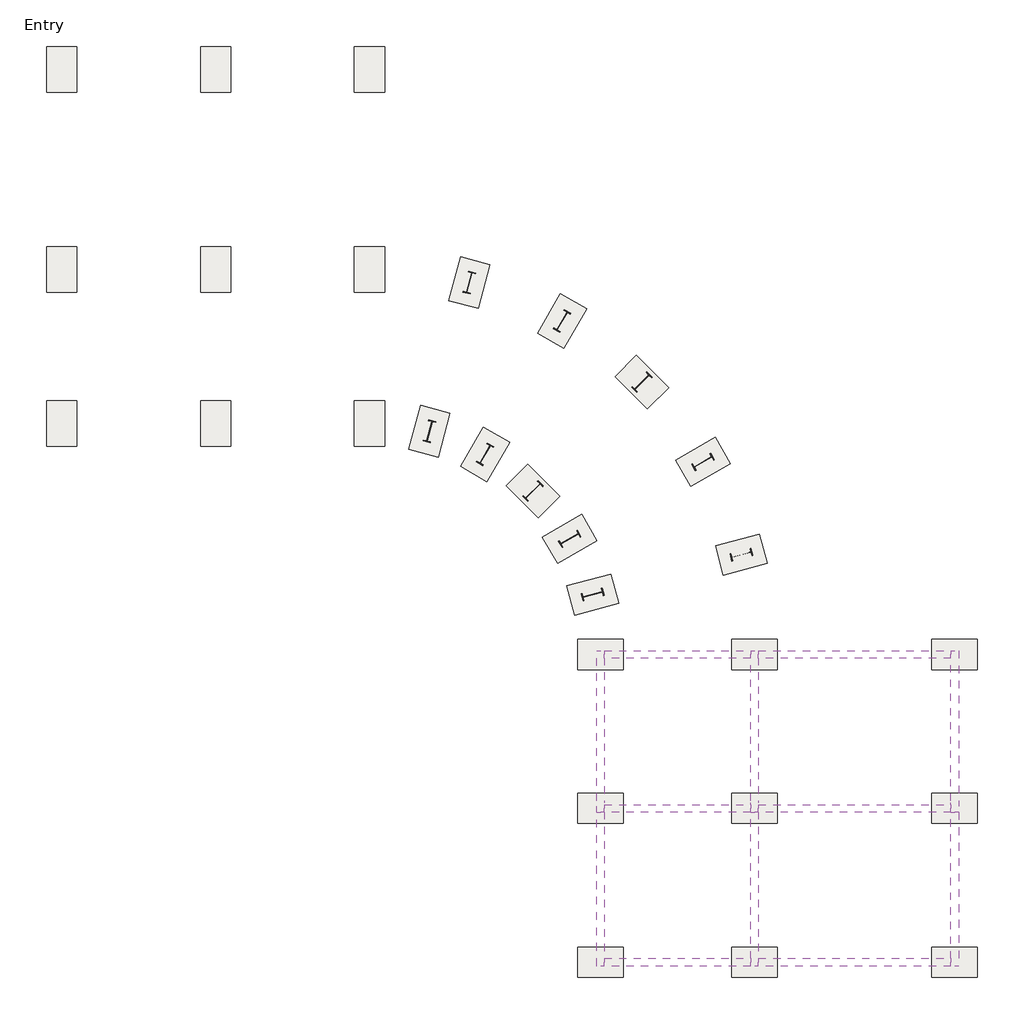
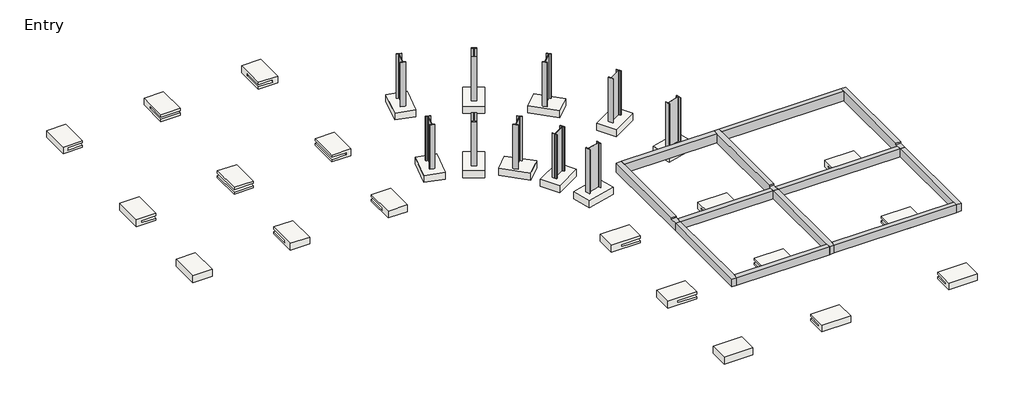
# One storey: 28 slabs, 12 beams, 10 columns.
"""IFC4 building model written with IfcOpenShell, lengths in millimetres."""

import ifcopenshell
import ifcopenshell.guid

model = None  # the IFC model being written
_history = None  # IfcOwnerHistory: only IFC2X3 demands one
_inside = {}  # id of a spatial element -> (the spatial element, [elements in it])
_under = {}  # id of a project, library or spatial element -> (it, [spatial elements below it])
_declared = {}  # id of a project -> (the project, [libraries it declares])
_typed = {}  # id of a type object -> (the type object, [elements of that type])
_made_of = {}  # id of a material, layer set ... -> (it, [elements and type objects made of it])


def new_model(schema):
    """Start an empty IFC model of exactly this schema.

    Asked for "IFC4X3", IfcOpenShell would pick the latest addendum, in which some entities
    have other attributes; the version numbers below select the first issue.
    IFC2X3 requires an IfcOwnerHistory on every rooted entity: one is made here for all.
    """
    global model, _history
    if schema == "IFC4X3":
        model = ifcopenshell.file(schema_version=(4, 3, 0, 0))
    else:
        model = ifcopenshell.file(schema=schema)
    _inside.clear()
    _under.clear()
    _declared.clear()
    _typed.clear()
    _made_of.clear()
    _history = None
    if model.schema == "IFC2X3":
        org = make("IfcOrganization", Name="unknown")
        user = make(
            "IfcPersonAndOrganization",
            ThePerson=make("IfcPerson", FamilyName="unknown"),
            TheOrganization=org,
        )
        app = make(
            "IfcApplication",
            ApplicationDeveloper=org,
            Version="unknown",
            ApplicationFullName="unknown",
            ApplicationIdentifier="unknown",
        )
        _history = make(
            "IfcOwnerHistory",
            OwningUser=user,
            OwningApplication=app,
            ChangeAction="ADDED",
            CreationDate=0,
        )
    return model


def make(cls, **values):
    """One entity of the class cls with the attributes given. An attribute that is None is left unset."""
    return model.create_entity(
        cls, **{name: value for name, value in values.items() if value is not None}
    )


def rooted(cls, **values):
    """An entity with a GlobalId (a new one), such as an element, a storey or a relation."""
    return make(cls, GlobalId=ifcopenshell.guid.new(), OwnerHistory=_history, **values)


def si_unit(unit_type, name, prefix=None):
    """IfcSIUnit, for example si_unit("LENGTHUNIT", "METRE", prefix="MILLI")."""
    return make("IfcSIUnit", UnitType=unit_type, Prefix=prefix, Name=name)


def assignment(units):
    """IfcUnitAssignment: the units of a project."""
    return None if units is None else make("IfcUnitAssignment", Units=units)


def point(xyz):
    """IfcCartesianPoint."""
    return None if xyz is None else make("IfcCartesianPoint", Coordinates=xyz)


def direction(xyz):
    """IfcDirection."""
    return None if xyz is None else make("IfcDirection", DirectionRatios=xyz)


def frame(location, z_axis=None, x_axis=None):
    """IfcAxis2Placement3D, a coordinate frame: its origin and axes. An axis left out is left unset."""
    return make(
        "IfcAxis2Placement3D",
        Location=point(location),
        Axis=direction(z_axis),
        RefDirection=direction(x_axis),
    )


def frame_2d(location, x_axis=None):
    """IfcAxis2Placement2D, a coordinate frame in the plane: its origin and x axis."""
    return make(
        "IfcAxis2Placement2D", Location=point(location), RefDirection=direction(x_axis)
    )


def origin():
    """The frame at (0, 0, 0) with its axes left unset."""
    return frame((0.0, 0.0, 0.0))


def origin_with_axes():
    """The frame at (0, 0, 0) with the z axis (0, 0, 1) and the x axis (1, 0, 0) written out."""
    return frame((0.0, 0.0, 0.0), z_axis=(0.0, 0.0, 1.0), x_axis=(1.0, 0.0, 0.0))


def place(relative_to, where):
    """IfcLocalPlacement: puts the frame where relative to a parent placement (None: the world)."""
    return make(
        "IfcLocalPlacement", PlacementRelTo=relative_to, RelativePlacement=where
    )


def context(
    kind, dimensions, precision=None, world=None, true_north=None, identifier=None
):
    """IfcGeometricRepresentationContext, for example the 3D "Model" context."""
    return make(
        "IfcGeometricRepresentationContext",
        ContextIdentifier=identifier,
        ContextType=kind,
        CoordinateSpaceDimension=dimensions,
        Precision=precision,
        WorldCoordinateSystem=world,
        TrueNorth=true_north,
    )


def project(units=None, contexts=None):
    """IfcProject with its units and contexts."""
    return rooted(
        "IfcProject",
        Name="project",
        RepresentationContexts=contexts,
        UnitsInContext=assignment(units),
    )


def spatial(cls, under=None, at=None, **own):
    """A site, building, storey or space (cls), placed at a placement, below another one or the project."""
    s = rooted(cls, ObjectPlacement=at, **own)
    if under is not None:
        _under.setdefault(under.id(), (under, []))[1].append(s)
    return s


def polyline(points):
    """IfcPolyline through the points."""
    return make("IfcPolyline", Points=[point(p) for p in points])


def circle_curve(where, radius):
    """IfcCircle in the frame where."""
    return make("IfcCircle", Position=where, Radius=radius)


def trimmed(basis, trim1, trim2, sense, master):
    """IfcTrimmedCurve: the piece of a basis curve between two trims."""
    return make(
        "IfcTrimmedCurve",
        BasisCurve=basis,
        Trim1=trim1,
        Trim2=trim2,
        SenseAgreement=sense,
        MasterRepresentation=master,
    )


def segment(curve, same_sense, transition):
    """IfcCompositeCurveSegment."""
    return make(
        "IfcCompositeCurveSegment",
        Transition=transition,
        SameSense=same_sense,
        ParentCurve=curve,
    )


def composite_curve(segments, self_intersect=None):
    """IfcCompositeCurve: segments joined end to end."""
    return make("IfcCompositeCurve", Segments=segments, SelfIntersect=self_intersect)


def outline(outer, holes=None, kind="AREA"):
    """IfcArbitraryClosedProfileDef: a profile drawn as a closed curve; with holes, ...WithVoids."""
    if holes is None:
        return make("IfcArbitraryClosedProfileDef", ProfileType=kind, OuterCurve=outer)
    return make(
        "IfcArbitraryProfileDefWithVoids",
        ProfileType=kind,
        OuterCurve=outer,
        InnerCurves=holes,
    )


def extrude(swept, where, along, depth):
    """IfcExtrudedAreaSolid: the profile swept, set in the frame where, extruded along a direction by depth."""
    return make(
        "IfcExtrudedAreaSolid",
        SweptArea=swept,
        Position=where,
        ExtrudedDirection=direction(along),
        Depth=depth,
    )


def faces_of(points, faces, orient=None, outer=None):
    """IfcFace entities. A face is a list of loops; a loop is a list of indices into points, from 0.

    orient and outer hold one flag for each loop. By default every Orientation is true, the
    first loop of a face is its IfcFaceOuterBound and the others are IfcFaceBound.
    """
    made = []
    for i, loops in enumerate(faces):
        bounds = []
        for j, loop in enumerate(loops):
            is_outer = j == 0 if outer is None else outer[i][j]
            bounds.append(
                make(
                    "IfcFaceOuterBound" if is_outer else "IfcFaceBound",
                    Bound=make("IfcPolyLoop", Polygon=[points[k] for k in loop]),
                    Orientation=True if orient is None else orient[i][j],
                )
            )
        made.append(make("IfcFace", Bounds=bounds))
    return made


def faceted_brep(points, faces, orient=None, outer=None, voids=None):
    """IfcFacetedBrep: a solid bounded by flat faces; with voids (closed shells), ...WithVoids."""
    shared = [point(p) for p in points]
    hull = make("IfcClosedShell", CfsFaces=faces_of(shared, faces, orient, outer))
    if voids is None:
        return make("IfcFacetedBrep", Outer=hull)
    return make(
        "IfcFacetedBrepWithVoids",
        Outer=hull,
        Voids=[
            make(cls, CfsFaces=faces_of(shared, fs, o, b)) for cls, fs, o, b in voids
        ],
    )


def shape(context_of_items, identifier, shape_type, items):
    """IfcShapeRepresentation: the items that make up one representation, for example the "Body"."""
    return make(
        "IfcShapeRepresentation",
        ContextOfItems=context_of_items,
        RepresentationIdentifier=identifier,
        RepresentationType=shape_type,
        Items=items,
    )


def source(mapping_origin, context_of_items, identifier, shape_type, items):
    """IfcRepresentationMap: a shape defined once, which mapped items show again and again."""
    return make(
        "IfcRepresentationMap",
        MappingOrigin=mapping_origin,
        MappedRepresentation=shape(context_of_items, identifier, shape_type, items),
    )


def transform(
    local_origin,
    x_axis=None,
    y_axis=None,
    z_axis=None,
    scale=None,
    scale2=None,
    scale3=None,
    uniform=True,
):
    """IfcCartesianTransformationOperator3D, or its non-uniform kind. x_axis, y_axis, z_axis: its Axis1, 2, 3."""
    if uniform:
        return make(
            "IfcCartesianTransformationOperator3D",
            Axis1=direction(x_axis),
            Axis2=direction(y_axis),
            LocalOrigin=point(local_origin),
            Scale=scale,
            Axis3=direction(z_axis),
        )
    return make(
        "IfcCartesianTransformationOperator3DnonUniform",
        Axis1=direction(x_axis),
        Axis2=direction(y_axis),
        LocalOrigin=point(local_origin),
        Scale=scale,
        Axis3=direction(z_axis),
        Scale2=scale2,
        Scale3=scale3,
    )


def mapped(mapping_source, mapping_target):
    """IfcMappedItem: shows the shape of a source again, moved by a transform."""
    return make(
        "IfcMappedItem", MappingSource=mapping_source, MappingTarget=mapping_target
    )


def made_of(thing, what):
    """Note that an element or type object is made of a material, layer set ...; save() writes the relation."""
    if what is not None:
        _made_of.setdefault(what.id(), (what, []))[1].append(thing)
    return thing


def element(
    cls,
    number,
    at=None,
    inside=None,
    cuts=None,
    type_object=None,
    material=None,
    context=None,
    identifier="Body",
    shape_type=None,
    held_by="IfcProductDefinitionShape",
    body=None,
    shapes=None,
    **own,
):
    """One element of the class cls, such as IfcWall. Its Tag is "e" and its number.

    at: its placement. inside: the storey or other place that contains it. cuts: it is an
    opening in that element (IfcRelVoidsElement). A single representation is given by context,
    identifier, shape_type and body (its items); several are given by shapes. held_by: the class
    of the entity that holds the representations. save() writes the other relations.
    """
    e = rooted(cls, Tag="e%d" % number, ObjectPlacement=at, **own)
    if body is not None:
        shapes = [shape(context, identifier, shape_type, body)]
    if shapes is not None:
        e.Representation = make(held_by, Representations=shapes)
    if inside is not None:
        _inside.setdefault(inside.id(), (inside, []))[1].append(e)
    if cuts is not None:
        rooted(
            "IfcRelVoidsElement", RelatingBuildingElement=cuts, RelatedOpeningElement=e
        )
    if type_object is not None:
        _typed.setdefault(type_object.id(), (type_object, []))[1].append(e)
    return made_of(e, material)


def aggregate(whole, parts):
    """IfcRelAggregates: a whole, such as a stair, and the parts it consists of."""
    return rooted("IfcRelAggregates", RelatingObject=whole, RelatedObjects=parts)


def save(model, path):
    """Write the relations noted so far, then the file.

    IfcRelAggregates (storeys below a building ...), IfcRelContainedInSpatialStructure (elements
    in a storey), IfcRelDefinesByType, IfcRelAssociatesMaterial and IfcRelDeclares: one each for
    every whole, place, type object, material and project.
    """
    for whole, parts in _under.values():
        aggregate(whole, parts)
    for where, things in _inside.values():
        rooted(
            "IfcRelContainedInSpatialStructure",
            RelatedElements=things,
            RelatingStructure=where,
        )
    for kind, things in _typed.values():
        rooted("IfcRelDefinesByType", RelatedObjects=things, RelatingType=kind)
    for what, things in _made_of.values():
        rooted("IfcRelAssociatesMaterial", RelatedObjects=things, RelatingMaterial=what)
    for by, libraries in _declared.values():
        rooted("IfcRelDeclares", RelatingContext=by, RelatedDefinitions=libraries)
    model.write(path)


def w840x251_85c665ee(model_context):
    return source(origin(), model_context, "Body", "SweptSolid", [
        extrude(outline(composite_curve([segment(polyline([(146.0, 429.5), (146.0, 398.5), (26.3, 398.5)]), True, "CONTINUOUS"), segment(trimmed(circle_curve(frame_2d((26.3, 380.7)), 17.8), [point((26.3, 398.5))], [point((8.5, 380.7))], True, "CARTESIAN"), True, "CONTINUOUS"), segment(polyline([(8.5, 380.7), (8.5, -380.7)]), True, "CONTINUOUS"), segment(trimmed(circle_curve(frame_2d((26.3, -380.7)), 17.8), [point((8.5, -380.7))], [point((26.3, -398.5))], True, "CARTESIAN"), True, "CONTINUOUS"), segment(polyline([(26.3, -398.5), (146.0, -398.5), (146.0, -429.5), (-146.0, -429.5), (-146.0, -398.5), (-26.3, -398.5)]), True, "CONTINUOUS"), segment(trimmed(circle_curve(frame_2d((-26.3, -380.7)), 17.8), [point((-26.3, -398.5))], [point((-8.5, -380.7))], True, "CARTESIAN"), True, "CONTINUOUS"), segment(polyline([(-8.5, -380.7), (-8.5, 380.7)]), True, "CONTINUOUS"), segment(trimmed(circle_curve(frame_2d((-26.3, 380.7)), 17.8), [point((-8.5, 380.7))], [point((-26.3, 398.5))], True, "CARTESIAN"), True, "CONTINUOUS"), segment(polyline([(-26.3, 398.5), (-146.0, 398.5), (-146.0, 429.5), (146.0, 429.5)]), True, "CONTINUOUS")], self_intersect=False)), origin_with_axes(), (0.0, 0.0, 1.0), 2921.0),
    ])


def m_footing_rectangular_1800_x_1200_x_450mm_16ba7ea5(model_context):
    return source(origin(), model_context, "Body", "SweptSolid", [
        extrude(outline(polyline([(600.0, 900.0), (600.0, -900.0), (-600.0, -900.0), (-600.0, 900.0), (600.0, 900.0)])), frame((0.0, 0.0, -450.0), z_axis=(0.0, 0.0, 1.0), x_axis=(1.0, 0.0, 0.0)), (0.0, 0.0, 1.0), 450.0),
    ])


model = new_model("IFC4")

# Units and contexts
model_context = context("Model", 3, world=origin())
ifc_project = project(units=[si_unit("LENGTHUNIT", "METRE", prefix="MILLI")], contexts=[model_context])

# Site, building, storey
site = spatial("IfcSite", under=ifc_project)
building = spatial("IfcBuilding", under=site)
storey = spatial("IfcBuildingStorey", under=building, Name="Entry", Elevation=0.0)

# Beams
placement = place(None, origin())
element("IfcBeam", 1, ObjectType="M_Concrete-Rectangular Beam : 300 x 600mm", at=placement, inside=storey, context=model_context, shape_type="Brep", body=[
    faceted_brep([(9373.9532044, -11766.3595363, 3048.0), (9073.9532044, -11766.3595363, 3048.0), (9073.9532044, -12066.3595363, 3048.0), (9073.9532044, -17712.3595363, 3048.0), (9373.9532044, -17712.3595363, 3048.0), (9373.9532044, -11766.3595363, 2448.0), (9373.9532044, -17712.3595363, 2958.0), (9373.9532044, -18162.3595363, 2958.0), (9373.9532044, -18162.3595363, 2448.0), (9073.9532044, -11766.3595363, 2448.0), (9073.9532044, -18162.3595363, 2448.0), (9073.9532044, -17862.3595363, 2448.0), (9073.9532044, -12066.3595363, 2448.0), (9073.9532044, -18162.3595363, 2958.0), (9073.9532044, -17862.3595363, 2958.0), (9073.9532044, -17712.3595363, 2958.0)], [[[0, 1, 2, 3, 4]], [[5, 0, 4, 6, 7, 8]], [[9, 5, 8, 10, 11, 12]], [[1, 9, 12, 11, 10, 13, 14, 15, 3, 2]], [[6, 15, 14, 13, 7]], [[15, 6, 4, 3]], [[1, 0, 5, 9]], [[10, 8, 7, 13]]]),
])
element("IfcBeam", 2, ObjectType="M_Concrete-Rectangular Beam : 300 x 600mm", at=placement, inside=storey, context=model_context, shape_type="Brep", body=[
    faceted_brep([(9373.9532044, -24258.3595363, 2448.0), (9373.9532044, -18162.3595363, 2448.0), (9373.9532044, -18162.3595363, 2958.0), (9373.9532044, -24258.3595363, 2958.0), (9073.9532044, -24258.3595363, 2448.0), (9073.9532044, -23958.3595363, 2448.0), (9073.9532044, -18162.3595363, 2448.0), (9073.9532044, -24258.3595363, 2958.0), (9073.9532044, -23958.3595363, 2958.0), (9073.9532044, -18162.3595363, 2958.0)], [[[0, 1, 2, 3]], [[0, 4, 5, 6, 1]], [[6, 5, 4, 7, 8, 9]], [[3, 2, 9, 8, 7]], [[4, 0, 3, 7]], [[1, 6, 9, 2]]]),
])
element("IfcBeam", 3, ObjectType="M_Concrete-Rectangular Beam : 300 x 600mm", at=placement, inside=storey, context=model_context, shape_type="Brep", body=[
    faceted_brep([(1448.9532044, -11766.3595363, 3048.0), (1148.9532044, -11766.3595363, 3048.0), (1148.9532044, -12066.3595363, 3048.0), (1148.9532044, -17712.3595363, 3048.0), (1448.9532044, -17712.3595363, 3048.0), (1448.9532044, -12066.3595363, 3048.0), (1448.9532044, -11766.3595363, 2448.0), (1448.9532044, -17712.3595363, 2958.0), (1448.9532044, -17862.3595363, 2958.0), (1448.9532044, -18162.3595363, 2958.0), (1448.9532044, -18162.3595363, 2448.0), (1448.9532044, -17862.3595363, 2448.0), (1448.9532044, -12066.3595363, 2448.0), (1148.9532044, -11766.3595363, 2448.0), (1148.9532044, -18162.3595363, 2448.0), (1148.9532044, -17862.3595363, 2448.0), (1148.9532044, -12066.3595363, 2448.0), (1148.9532044, -18162.3595363, 2958.0), (1148.9532044, -17862.3595363, 2958.0), (1148.9532044, -17712.3595363, 2958.0)], [[[0, 1, 2, 3, 4, 5]], [[6, 0, 5, 4, 7, 8, 9, 10, 11, 12]], [[13, 6, 12, 11, 10, 14, 15, 16]], [[1, 13, 16, 15, 14, 17, 18, 19, 3, 2]], [[7, 19, 18, 17, 9, 8]], [[19, 7, 4, 3]], [[1, 0, 6, 13]], [[14, 10, 9, 17]]]),
])
element("IfcBeam", 4, ObjectType="M_Concrete-Rectangular Beam : 300 x 600mm", at=placement, inside=storey, context=model_context, shape_type="Brep", body=[
    faceted_brep([(1448.9532044, -24258.3595363, 2448.0), (1448.9532044, -23958.3595363, 2448.0), (1448.9532044, -18162.3595363, 2448.0), (1448.9532044, -18162.3595363, 2958.0), (1448.9532044, -23958.3595363, 2958.0), (1448.9532044, -24258.3595363, 2958.0), (1148.9532044, -24258.3595363, 2448.0), (1148.9532044, -23958.3595363, 2448.0), (1148.9532044, -18162.3595363, 2448.0), (1148.9532044, -24258.3595363, 2958.0), (1148.9532044, -23958.3595363, 2958.0), (1148.9532044, -18162.3595363, 2958.0)], [[[0, 1, 2, 3, 4, 5]], [[0, 6, 7, 8, 2, 1]], [[8, 7, 6, 9, 10, 11]], [[5, 4, 3, 11, 10, 9]], [[6, 0, 5, 9]], [[2, 8, 11, 3]]]),
])
element("IfcBeam", 5, ObjectType="M_Concrete-Rectangular Beam : 300 x 600mm", at=placement, inside=storey, context=model_context, shape_type="Brep", body=[
    faceted_brep([(-4647.0467956, -11766.3595363, 3048.0), (-4947.0467956, -11766.3595363, 3048.0), (-4947.0467956, -17712.3595363, 3048.0), (-4647.0467956, -17712.3595363, 3048.0), (-4647.0467956, -12066.3595363, 3048.0), (-4647.0467956, -11766.3595363, 2448.0), (-4647.0467956, -17712.3595363, 2958.0), (-4647.0467956, -17862.3595363, 2958.0), (-4647.0467956, -18162.3595363, 2958.0), (-4647.0467956, -18162.3595363, 2448.0), (-4647.0467956, -17862.3595363, 2448.0), (-4647.0467956, -12066.3595363, 2448.0), (-4947.0467956, -11766.3595363, 2448.0), (-4947.0467956, -18162.3595363, 2448.0), (-4947.0467956, -18162.3595363, 2958.0), (-4947.0467956, -17712.3595363, 2958.0)], [[[0, 1, 2, 3, 4]], [[5, 0, 4, 3, 6, 7, 8, 9, 10, 11]], [[12, 5, 11, 10, 9, 13]], [[1, 12, 13, 14, 15, 2]], [[6, 15, 14, 8, 7]], [[15, 6, 3, 2]], [[1, 0, 5, 12]], [[13, 9, 8, 14]]]),
])
element("IfcBeam", 6, ObjectType="M_Concrete-Rectangular Beam : 300 x 600mm", at=placement, inside=storey, context=model_context, shape_type="Brep", body=[
    faceted_brep([(-4647.0467956, -24258.3595363, 2448.0), (-4647.0467956, -23958.3595363, 2448.0), (-4647.0467956, -18162.3595363, 2448.0), (-4647.0467956, -18162.3595363, 2958.0), (-4647.0467956, -23958.3595363, 2958.0), (-4647.0467956, -24258.3595363, 2958.0), (-4947.0467956, -24258.3595363, 2448.0), (-4947.0467956, -18162.3595363, 2448.0), (-4947.0467956, -24258.3595363, 2958.0), (-4947.0467956, -18162.3595363, 2958.0)], [[[0, 1, 2, 3, 4, 5]], [[0, 6, 7, 2, 1]], [[7, 6, 8, 9]], [[5, 4, 3, 9, 8]], [[6, 0, 5, 8]], [[2, 7, 9, 3]]]),
])
element("IfcBeam", 7, ObjectType="M_Concrete-Rectangular Beam : 300 x 600mm", at=placement, inside=storey, context=model_context, shape_type="SweptSolid", body=[
    extrude(outline(polyline([(-4647.0467956, -12066.3595363), (-4647.0467956, -11766.3595363), (1148.9532044, -11766.3595363), (1148.9532044, -12066.3595363), (-4647.0467956, -12066.3595363)])), frame((0.0, 0.0, 2448.0), z_axis=(0.0, 0.0, 1.0), x_axis=(1.0, 0.0, 0.0)), (0.0, 0.0, 1.0), 600.0),
])
element("IfcBeam", 8, ObjectType="M_Concrete-Rectangular Beam : 300 x 600mm", at=placement, inside=storey, context=model_context, shape_type="SweptSolid", body=[
    extrude(outline(polyline([(1448.9532044, -12066.3595363), (1448.9532044, -11766.3595363), (9073.9532044, -11766.3595363), (9073.9532044, -12066.3595363), (1448.9532044, -12066.3595363)])), frame((0.0, 0.0, 2448.0), z_axis=(0.0, 0.0, 1.0), x_axis=(1.0, 0.0, 0.0)), (0.0, 0.0, 1.0), 600.0),
])
element("IfcBeam", 9, ObjectType="M_Concrete-Rectangular Beam : 300 x 600mm", at=placement, inside=storey, context=model_context, shape_type="SweptSolid", body=[
    extrude(outline(polyline([(-4647.0467956, -18162.3595363), (-4647.0467956, -17862.3595363), (1148.9532044, -17862.3595363), (1148.9532044, -18162.3595363), (-4647.0467956, -18162.3595363)])), frame((0.0, 0.0, 2448.0), z_axis=(0.0, 0.0, 1.0), x_axis=(1.0, 0.0, 0.0)), (0.0, 0.0, 1.0), 510.0),
])
element("IfcBeam", 10, ObjectType="M_Concrete-Rectangular Beam : 300 x 600mm", at=placement, inside=storey, context=model_context, shape_type="SweptSolid", body=[
    extrude(outline(polyline([(1448.9532044, -18162.3595363), (1448.9532044, -17862.3595363), (9073.9532044, -17862.3595363), (9073.9532044, -18162.3595363), (1448.9532044, -18162.3595363)])), frame((0.0, 0.0, 2448.0), z_axis=(0.0, 0.0, 1.0), x_axis=(1.0, 0.0, 0.0)), (0.0, 0.0, 1.0), 510.0),
])
element("IfcBeam", 11, ObjectType="M_Concrete-Rectangular Beam : 300 x 600mm", at=placement, inside=storey, context=model_context, shape_type="SweptSolid", body=[
    extrude(outline(polyline([(-4647.0467956, -24258.3595363), (-4647.0467956, -23958.3595363), (1148.9532044, -23958.3595363), (1148.9532044, -24258.3595363), (-4647.0467956, -24258.3595363)])), frame((0.0, 0.0, 2448.0), z_axis=(0.0, 0.0, 1.0), x_axis=(1.0, 0.0, 0.0)), (0.0, 0.0, 1.0), 510.0),
])
element("IfcBeam", 12, ObjectType="M_Concrete-Rectangular Beam : 300 x 600mm", at=placement, inside=storey, context=model_context, shape_type="SweptSolid", body=[
    extrude(outline(polyline([(1448.9532044, -24258.3595363), (1448.9532044, -23958.3595363), (9073.9532044, -23958.3595363), (9073.9532044, -24258.3595363), (1448.9532044, -24258.3595363)])), frame((0.0, 0.0, 2448.0), z_axis=(0.0, 0.0, 1.0), x_axis=(1.0, 0.0, 0.0)), (0.0, 0.0, 1.0), 510.0),
])

# Columns
w840x251_shape = w840x251_85c665ee(model_context)
element("IfcColumn", 13, ObjectType="M_W Shapes-Column : W840X251", at=placement, inside=storey, context=model_context, shape_type="MappedRepresentation", body=[
    mapped(w840x251_shape, transform((-5108.62104, -9549.7181879, 0.0), x_axis=(-0.2588190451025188, 0.9659258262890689, 0.0), y_axis=(-0.9659258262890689, -0.2588190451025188, 0.0), z_axis=(0.0, 0.0, 1.0))),
])
element("IfcColumn", 14, ObjectType="M_W Shapes-Column : W840X251", at=placement, inside=storey, context=model_context, shape_type="MappedRepresentation", body=[
    mapped(w840x251_shape, transform((779.6627971, -7971.957289, 0.0), x_axis=(-0.2588190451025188, 0.9659258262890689, 0.0), y_axis=(-0.9659258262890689, -0.2588190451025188, 0.0), z_axis=(0.0, 0.0, 1.0))),
])
element("IfcColumn", 15, ObjectType="M_W Shapes-Column : W840X251", at=placement, inside=storey, context=model_context, shape_type="MappedRepresentation", body=[
    mapped(w840x251_shape, transform((-6022.1105033, -7344.3595363, 0.0), x_axis=(-0.4999999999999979, 0.8660254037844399, 0.0), y_axis=(-0.8660254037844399, -0.4999999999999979, 0.0), z_axis=(0.0, 0.0, 1.0))),
])
element("IfcColumn", 16, ObjectType="M_W Shapes-Column : W840X251", at=placement, inside=storey, context=model_context, shape_type="MappedRepresentation", body=[
    mapped(w840x251_shape, transform((-742.8196419, -4296.3595363, 0.0), x_axis=(-0.4999999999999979, 0.8660254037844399, 0.0), y_axis=(-0.8660254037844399, -0.4999999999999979, 0.0), z_axis=(0.0, 0.0, 1.0))),
])
element("IfcColumn", 17, ObjectType="M_W Shapes-Column : W840X251", at=placement, inside=storey, context=model_context, shape_type="MappedRepresentation", body=[
    mapped(w840x251_shape, transform((-7475.2623884, -5450.5751292, 0.0), x_axis=(0.7071067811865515, -0.7071067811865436, 0.0), y_axis=(0.7071067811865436, 0.7071067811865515, 0.0), z_axis=(0.0, 0.0, 1.0))),
])
element("IfcColumn", 18, ObjectType="M_W Shapes-Column : W840X251", at=placement, inside=storey, context=model_context, shape_type="MappedRepresentation", body=[
    mapped(w840x251_shape, transform((-3164.7394503, -1140.0521911, 0.0), x_axis=(0.7071067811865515, -0.7071067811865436, 0.0), y_axis=(0.7071067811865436, 0.7071067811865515, 0.0), z_axis=(0.0, 0.0, 1.0))),
])
element("IfcColumn", 19, ObjectType="M_W Shapes-Column : W840X251", at=placement, inside=storey, context=model_context, shape_type="MappedRepresentation", body=[
    mapped(w840x251_shape, transform((-9369.0467956, -3997.4232441, 0.0), x_axis=(0.8660254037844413, -0.49999999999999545, 0.0), y_axis=(0.49999999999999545, 0.8660254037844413, 0.0), z_axis=(0.0, 0.0, 1.0))),
])
element("IfcColumn", 20, ObjectType="M_W Shapes-Column : W840X251", at=placement, inside=storey, context=model_context, shape_type="MappedRepresentation", body=[
    mapped(w840x251_shape, transform((-6321.0467956, 1281.8676173, 0.0), x_axis=(0.8660254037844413, -0.49999999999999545, 0.0), y_axis=(0.49999999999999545, 0.8660254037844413, 0.0), z_axis=(0.0, 0.0, 1.0))),
])
element("IfcColumn", 21, ObjectType="M_W Shapes-Column : W840X251", at=placement, inside=storey, context=model_context, shape_type="MappedRepresentation", body=[
    mapped(w840x251_shape, transform((-11574.4054471, -3083.9337808, 0.0), x_axis=(0.9659258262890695, -0.258819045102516, 0.0), y_axis=(0.258819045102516, 0.9659258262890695, 0.0), z_axis=(0.0, 0.0, 1.0))),
])
element("IfcColumn", 22, ObjectType="M_W Shapes-Column : W840X251", at=placement, inside=storey, context=model_context, shape_type="MappedRepresentation", body=[
    mapped(w840x251_shape, transform((-9996.6445482, 2804.3500563, 0.0), x_axis=(0.9659258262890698, -0.25881904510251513, 0.0), y_axis=(0.25881904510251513, 0.9659258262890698, 0.0), z_axis=(0.0, 0.0, 1.0))),
])

# Slabs
element("IfcSlab", 23, ObjectType="M_Footing-Rectangular : 1800 x 1200 x 450mm", at=placement, inside=storey, context=model_context, shape_type="Brep", body=[
    faceted_brep([(-14541.0467956, 10348.6404637, -1676.4), (-13341.0467956, 10348.6404637, -1676.4), (-13341.0467956, 12148.6404637, -1676.4), (-14541.0467956, 12148.6404637, -1676.4), (-14541.0467956, 10348.6404637, -2126.4), (-14541.0467956, 12148.6404637, -2126.4), (-13341.0467956, 12148.6404637, -2126.4), (-13341.0467956, 10348.6404637, -2126.4), (-14541.0467956, 10348.6404637, -1828.8), (-13641.0467956, 10348.6404637, -1828.8), (-13641.0467956, 10348.6404637, -1978.8), (-14541.0467956, 10348.6404637, -1978.8), (-14541.0467956, 11548.6404637, -1978.8), (-14541.0467956, 11548.6404637, -1828.8), (-13641.0467956, 11548.6404637, -1978.8), (-13641.0467956, 11548.6404637, -1828.8)], [[[0, 1, 2, 3]], [[4, 5, 6, 7]], [[1, 0, 8, 9, 10, 11, 4, 7]], [[2, 1, 7, 6]], [[3, 2, 6, 5]], [[0, 3, 5, 4, 11, 12, 13, 8]], [[14, 12, 11, 10]], [[15, 9, 8, 13]], [[15, 14, 10, 9]], [[14, 15, 13, 12]]]),
])
element("IfcSlab", 24, ObjectType="M_Footing-Rectangular : 1800 x 1200 x 450mm", at=placement, inside=storey, context=model_context, shape_type="SweptSolid", body=[
    extrude(outline(polyline([(10348.6404637, -1676.4), (12148.6404637, -1676.4), (12148.6404637, -2126.4), (10348.6404637, -2126.4), (10348.6404637, -1978.8), (11548.6404637, -1978.8), (11548.6404637, -1828.8), (10348.6404637, -1828.8), (10348.6404637, -1676.4)])), frame((-20637.0467956, 0.0, 0.0), z_axis=(1.0, 0.0, 0.0), x_axis=(0.0, 1.0, 0.0)), (0.0, 0.0, 1.0), 1200.0),
])
element("IfcSlab", 25, ObjectType="M_Footing-Rectangular : 1800 x 1200 x 450mm", at=placement, inside=storey, context=model_context, shape_type="Brep", body=[
    faceted_brep([(-26733.0467956, 10348.6404637, -1676.4), (-25533.0467956, 10348.6404637, -1676.4), (-25533.0467956, 12148.6404637, -1676.4), (-26733.0467956, 12148.6404637, -1676.4), (-26733.0467956, 10348.6404637, -2126.4), (-26733.0467956, 12148.6404637, -2126.4), (-25533.0467956, 12148.6404637, -2126.4), (-25533.0467956, 10348.6404637, -2126.4), (-25533.0467956, 10348.6404637, -1978.8), (-26433.0467956, 10348.6404637, -1978.8), (-26433.0467956, 10348.6404637, -1828.8), (-25533.0467956, 10348.6404637, -1828.8), (-25533.0467956, 11548.6404637, -1828.8), (-25533.0467956, 11548.6404637, -1978.8), (-26433.0467956, 11548.6404637, -1978.8), (-26433.0467956, 11548.6404637, -1828.8)], [[[0, 1, 2, 3]], [[4, 5, 6, 7]], [[1, 0, 4, 7, 8, 9, 10, 11]], [[2, 1, 11, 12, 13, 8, 7, 6]], [[3, 2, 6, 5]], [[0, 3, 5, 4]], [[13, 14, 9, 8]], [[10, 15, 12, 11]], [[14, 15, 10, 9]], [[15, 14, 13, 12]]]),
])
element("IfcSlab", 26, ObjectType="M_Footing-Rectangular : 1800 x 1200 x 450mm", at=placement, inside=storey, context=model_context, shape_type="SweptSolid", body=[
    extrude(outline(polyline([(-1676.4, -13341.0467956), (-1676.4, -14541.0467956), (-1828.8, -14541.0467956), (-1828.8, -13641.0467956), (-1978.8, -13641.0467956), (-1978.8, -14541.0467956), (-2126.4, -14541.0467956), (-2126.4, -13341.0467956), (-1676.4, -13341.0467956)])), frame((0.0, 2423.6404637, 0.0), z_axis=(0.0, 1.0, 0.0), x_axis=(0.0, 0.0, 1.0)), (0.0, 0.0, 1.0), 1800.0),
])
element("IfcSlab", 27, ObjectType="M_Footing-Rectangular : 1800 x 1200 x 450mm", at=placement, inside=storey, context=model_context, shape_type="Brep", body=[
    faceted_brep([(-13341.0467956, -1872.3595363, -1676.4), (-14541.0467956, -1872.3595363, -1676.4), (-14541.0467956, -3672.3595363, -1676.4), (-13341.0467956, -3672.3595363, -1676.4), (-13341.0467956, -1872.3595363, -2126.4), (-13341.0467956, -3672.3595363, -2126.4), (-14541.0467956, -3672.3595363, -2126.4), (-14541.0467956, -1872.3595363, -2126.4), (-14541.0467956, -1872.3595363, -1978.8), (-13641.0467956, -1872.3595363, -1978.8), (-13641.0467956, -1872.3595363, -1828.8), (-14541.0467956, -1872.3595363, -1828.8), (-14541.0467956, -3072.3595363, -1828.8), (-14541.0467956, -3072.3595363, -1978.8), (-13641.0467956, -3072.3595363, -1978.8), (-13641.0467956, -3072.3595363, -1828.8)], [[[0, 1, 2, 3]], [[4, 5, 6, 7]], [[1, 0, 4, 7, 8, 9, 10, 11]], [[2, 1, 11, 12, 13, 8, 7, 6]], [[3, 2, 6, 5]], [[0, 3, 5, 4]], [[13, 14, 9, 8]], [[10, 15, 12, 11]], [[14, 15, 10, 9]], [[15, 14, 13, 12]]]),
])
element("IfcSlab", 28, ObjectType="M_Footing-Rectangular : 1800 x 1200 x 450mm", at=placement, inside=storey, context=model_context, shape_type="SweptSolid", body=[
    extrude(outline(polyline([(-3672.3595363, -1676.4), (-1872.3595363, -1676.4), (-1872.3595363, -1828.8), (-3072.3595363, -1828.8), (-3072.3595363, -1978.8), (-1872.3595363, -1978.8), (-1872.3595363, -2126.4), (-3672.3595363, -2126.4), (-3672.3595363, -1676.4)])), frame((-20637.0467956, 0.0, 0.0), z_axis=(1.0, 0.0, 0.0), x_axis=(0.0, 1.0, 0.0)), (0.0, 0.0, 1.0), 1200.0),
])
element("IfcSlab", 29, ObjectType="M_Footing-Rectangular : 1800 x 1200 x 450mm", at=placement, inside=storey, context=model_context, shape_type="Brep", body=[
    faceted_brep([(-26733.0467956, -3672.3595363, -1676.4), (-25533.0467956, -3672.3595363, -1676.4), (-25533.0467956, -1872.3595363, -1676.4), (-26733.0467956, -1872.3595363, -1676.4), (-26733.0467956, -3672.3595363, -2126.4), (-26733.0467956, -1872.3595363, -2126.4), (-25533.0467956, -1872.3595363, -2126.4), (-25533.0467956, -3672.3595363, -2126.4), (-25533.0467956, -1872.3595363, -1978.8), (-25533.0467956, -3072.3595363, -1978.8), (-25533.0467956, -3072.3595363, -1828.8), (-25533.0467956, -1872.3595363, -1828.8), (-26433.0467956, -1872.3595363, -1828.8), (-26433.0467956, -1872.3595363, -1978.8), (-26433.0467956, -3072.3595363, -1978.8), (-26433.0467956, -3072.3595363, -1828.8)], [[[0, 1, 2, 3]], [[4, 5, 6, 7]], [[1, 0, 4, 7]], [[2, 1, 7, 6, 8, 9, 10, 11]], [[3, 2, 11, 12, 13, 8, 6, 5]], [[0, 3, 5, 4]], [[13, 14, 9, 8]], [[10, 15, 12, 11]], [[14, 15, 10, 9]], [[15, 14, 13, 12]]]),
])
element("IfcSlab", 30, ObjectType="M_Footing-Rectangular : 1800 x 1200 x 450mm", at=placement, inside=storey, context=model_context, shape_type="SweptSolid", body=[
    extrude(outline(polyline([(-19437.0467956, 2423.6404637), (-20637.0467956, 2423.6404637), (-20637.0467956, 4223.6404637), (-19437.0467956, 4223.6404637), (-19437.0467956, 2423.6404637)])), frame((0.0, 0.0, -1828.8), z_axis=(0.0, 0.0, 1.0), x_axis=(1.0, 0.0, 0.0)), (0.0, 0.0, 1.0), 152.4),
    extrude(outline(polyline([(-20637.0467956, 2423.6404637), (-20637.0467956, 4223.6404637), (-19437.0467956, 4223.6404637), (-19437.0467956, 2423.6404637), (-20637.0467956, 2423.6404637)])), frame((0.0, 0.0, -2126.4), z_axis=(0.0, 0.0, 1.0), x_axis=(1.0, 0.0, 0.0)), (0.0, 0.0, 1.0), 147.6),
])
element("IfcSlab", 31, ObjectType="M_Footing-Rectangular : 1800 x 1200 x 450mm", at=placement, inside=storey, context=model_context, shape_type="SweptSolid", body=[
    extrude(outline(polyline([(-1676.4, -25533.0467956), (-1676.4, -26733.0467956), (-2126.4, -26733.0467956), (-2126.4, -25533.0467956), (-1978.8, -25533.0467956), (-1978.8, -26433.0467956), (-1828.8, -26433.0467956), (-1828.8, -25533.0467956), (-1676.4, -25533.0467956)])), frame((0.0, 2423.6404637, 0.0), z_axis=(0.0, 1.0, 0.0), x_axis=(0.0, 0.0, 1.0)), (0.0, 0.0, 1.0), 1800.0),
])
element("IfcSlab", 32, ObjectType="M_Footing-Rectangular : 1800 x 1200 x 450mm", at=placement, inside=storey, context=model_context, shape_type="Brep", body=[
    faceted_brep([(8323.9532044, -11316.3595363, -1676.4), (8323.9532044, -12516.3595363, -1676.4), (10123.9532044, -12516.3595363, -1676.4), (10123.9532044, -11316.3595363, -1676.4), (10123.9532044, -12516.3595363, -2126.4), (8323.9532044, -12516.3595363, -2126.4), (8323.9532044, -11316.3595363, -2126.4), (10123.9532044, -11316.3595363, -2126.4), (8323.9532044, -12516.3595363, -1978.8), (8323.9532044, -11616.3595363, -1978.8), (8323.9532044, -11616.3595363, -1828.8), (8323.9532044, -12516.3595363, -1828.8), (9523.9532044, -12516.3595363, -1828.8), (9523.9532044, -12516.3595363, -1978.8), (9523.9532044, -11616.3595363, -1978.8), (9523.9532044, -11616.3595363, -1828.8)], [[[0, 1, 2, 3]], [[4, 5, 6, 7]], [[1, 0, 6, 5, 8, 9, 10, 11]], [[0, 3, 7, 6]], [[3, 2, 4, 7]], [[2, 1, 11, 12, 13, 8, 5, 4]], [[14, 9, 8, 13]], [[15, 12, 11, 10]], [[14, 15, 10, 9]], [[15, 14, 13, 12]]]),
])
element("IfcSlab", 33, ObjectType="M_Footing-Rectangular : 1800 x 1200 x 450mm", at=placement, inside=storey, context=model_context, shape_type="SweptSolid", body=[
    extrude(outline(polyline([(-1676.4, 10123.9532044), (-1676.4, 8323.9532044), (-1828.8, 8323.9532044), (-1828.8, 9523.9532044), (-1978.8, 9523.9532044), (-1978.8, 8323.9532044), (-2126.4, 8323.9532044), (-2126.4, 10123.9532044), (-1676.4, 10123.9532044)])), frame((0.0, -18612.3595363, 0.0), z_axis=(0.0, 1.0, 0.0), x_axis=(0.0, 0.0, 1.0)), (0.0, 0.0, 1.0), 1200.0),
])
element("IfcSlab", 34, ObjectType="M_Footing-Rectangular : 1800 x 1200 x 450mm", at=placement, inside=storey, context=model_context, shape_type="Brep", body=[
    faceted_brep([(8323.9532044, -23508.3595363, -1676.4), (8323.9532044, -24708.3595363, -1676.4), (10123.9532044, -24708.3595363, -1676.4), (10123.9532044, -23508.3595363, -1676.4), (10123.9532044, -24708.3595363, -2126.4), (8323.9532044, -24708.3595363, -2126.4), (8323.9532044, -23508.3595363, -2126.4), (10123.9532044, -23508.3595363, -2126.4), (8323.9532044, -23508.3595363, -1828.8), (8323.9532044, -24408.3595363, -1828.8), (8323.9532044, -24408.3595363, -1978.8), (8323.9532044, -23508.3595363, -1978.8), (9523.9532044, -23508.3595363, -1978.8), (9523.9532044, -23508.3595363, -1828.8), (9523.9532044, -24408.3595363, -1978.8), (9523.9532044, -24408.3595363, -1828.8)], [[[0, 1, 2, 3]], [[4, 5, 6, 7]], [[1, 0, 8, 9, 10, 11, 6, 5]], [[0, 3, 7, 6, 11, 12, 13, 8]], [[3, 2, 4, 7]], [[2, 1, 5, 4]], [[10, 14, 12, 11]], [[13, 15, 9, 8]], [[15, 14, 10, 9]], [[14, 15, 13, 12]]]),
])
element("IfcSlab", 35, ObjectType="M_Footing-Rectangular : 1800 x 1200 x 450mm", at=placement, inside=storey, context=model_context, shape_type="SweptSolid", body=[
    extrude(outline(polyline([(-12516.3595363, -1676.4), (-11316.3595363, -1676.4), (-11316.3595363, -2126.4), (-12516.3595363, -2126.4), (-12516.3595363, -1978.8), (-11616.3595363, -1978.8), (-11616.3595363, -1828.8), (-12516.3595363, -1828.8), (-12516.3595363, -1676.4)])), frame((398.9532044, 0.0, 0.0), z_axis=(1.0, 0.0, 0.0), x_axis=(0.0, 1.0, 0.0)), (0.0, 0.0, 1.0), 1800.0),
])
element("IfcSlab", 36, ObjectType="M_Footing-Rectangular : 1800 x 1200 x 450mm", at=placement, inside=storey, context=model_context, shape_type="Brep", body=[
    faceted_brep([(-3897.0467956, -12516.3595363, -1676.4), (-3897.0467956, -11316.3595363, -1676.4), (-5697.0467956, -11316.3595363, -1676.4), (-5697.0467956, -12516.3595363, -1676.4), (-5697.0467956, -11316.3595363, -2126.4), (-3897.0467956, -11316.3595363, -2126.4), (-3897.0467956, -12516.3595363, -2126.4), (-5697.0467956, -12516.3595363, -2126.4), (-3897.0467956, -12516.3595363, -1828.8), (-3897.0467956, -11616.3595363, -1828.8), (-3897.0467956, -11616.3595363, -1978.8), (-3897.0467956, -12516.3595363, -1978.8), (-5097.0467956, -12516.3595363, -1978.8), (-5097.0467956, -12516.3595363, -1828.8), (-5097.0467956, -11616.3595363, -1978.8), (-5097.0467956, -11616.3595363, -1828.8)], [[[0, 1, 2, 3]], [[4, 5, 6, 7]], [[1, 0, 8, 9, 10, 11, 6, 5]], [[0, 3, 7, 6, 11, 12, 13, 8]], [[3, 2, 4, 7]], [[2, 1, 5, 4]], [[10, 14, 12, 11]], [[13, 15, 9, 8]], [[15, 14, 10, 9]], [[14, 15, 13, 12]]]),
])
element("IfcSlab", 37, ObjectType="M_Footing-Rectangular : 1800 x 1200 x 450mm", at=placement, inside=storey, context=model_context, shape_type="SweptSolid", body=[
    extrude(outline(polyline([(-1676.4, -3897.0467956), (-1676.4, -5697.0467956), (-2126.4, -5697.0467956), (-2126.4, -3897.0467956), (-1978.8, -3897.0467956), (-1978.8, -5097.0467956), (-1828.8, -5097.0467956), (-1828.8, -3897.0467956), (-1676.4, -3897.0467956)])), frame((0.0, -18612.3595363, 0.0), z_axis=(0.0, 1.0, 0.0), x_axis=(0.0, 0.0, 1.0)), (0.0, 0.0, 1.0), 1200.0),
])
element("IfcSlab", 38, ObjectType="M_Footing-Rectangular : 1800 x 1200 x 450mm", at=placement, inside=storey, context=model_context, shape_type="Brep", body=[
    faceted_brep([(-5697.0467956, -23508.3595363, -1676.4), (-5697.0467956, -24708.3595363, -1676.4), (-3897.0467956, -24708.3595363, -1676.4), (-3897.0467956, -23508.3595363, -1676.4), (-3897.0467956, -24708.3595363, -2126.4), (-5697.0467956, -24708.3595363, -2126.4), (-5697.0467956, -23508.3595363, -2126.4), (-3897.0467956, -23508.3595363, -2126.4), (-3897.0467956, -23508.3595363, -1828.8), (-5097.0467956, -23508.3595363, -1828.8), (-5097.0467956, -23508.3595363, -1978.8), (-3897.0467956, -23508.3595363, -1978.8), (-3897.0467956, -24408.3595363, -1978.8), (-3897.0467956, -24408.3595363, -1828.8), (-5097.0467956, -24408.3595363, -1978.8), (-5097.0467956, -24408.3595363, -1828.8)], [[[0, 1, 2, 3]], [[4, 5, 6, 7]], [[1, 0, 6, 5]], [[0, 3, 8, 9, 10, 11, 7, 6]], [[3, 2, 4, 7, 11, 12, 13, 8]], [[2, 1, 5, 4]], [[10, 14, 12, 11]], [[13, 15, 9, 8]], [[15, 14, 10, 9]], [[14, 15, 13, 12]]]),
])
element("IfcSlab", 39, ObjectType="M_Footing-Rectangular : 1800 x 1200 x 450mm", at=placement, inside=storey, context=model_context, shape_type="SweptSolid", body=[
    extrude(outline(polyline([(398.9532044, -18612.3595363), (398.9532044, -17412.3595363), (2198.9532044, -17412.3595363), (2198.9532044, -18612.3595363), (398.9532044, -18612.3595363)])), frame((0.0, 0.0, -1828.8), z_axis=(0.0, 0.0, 1.0), x_axis=(1.0, 0.0, 0.0)), (0.0, 0.0, 1.0), 152.4),
    extrude(outline(polyline([(2198.9532044, -18612.3595363), (398.9532044, -18612.3595363), (398.9532044, -17412.3595363), (2198.9532044, -17412.3595363), (2198.9532044, -18612.3595363)])), frame((0.0, 0.0, -2126.4), z_axis=(0.0, 0.0, 1.0), x_axis=(1.0, 0.0, 0.0)), (0.0, 0.0, 1.0), 147.6),
])
element("IfcSlab", 40, ObjectType="M_Footing-Rectangular : 1800 x 1200 x 450mm", at=placement, inside=storey, context=model_context, shape_type="SweptSolid", body=[
    extrude(outline(polyline([(-24708.3595363, -1676.4), (-23508.3595363, -1676.4), (-23508.3595363, -1828.8), (-24408.3595363, -1828.8), (-24408.3595363, -1978.8), (-23508.3595363, -1978.8), (-23508.3595363, -2126.4), (-24708.3595363, -2126.4), (-24708.3595363, -1676.4)])), frame((398.9532044, 0.0, 0.0), z_axis=(1.0, 0.0, 0.0), x_axis=(0.0, 1.0, 0.0)), (0.0, 0.0, 1.0), 1800.0),
])
m_footing_rectangular_1800_x_1200_x_450mm_shape = m_footing_rectangular_1800_x_1200_x_450mm_16ba7ea5(model_context)
element("IfcSlab", 41, ObjectType="M_Footing-Rectangular : 1800 x 1200 x 450mm", at=placement, inside=storey, context=model_context, shape_type="MappedRepresentation", body=[
    mapped(m_footing_rectangular_1800_x_1200_x_450mm_shape, transform((779.6627971, -7971.957289, 0.0), x_axis=(-0.2588190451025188, 0.9659258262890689, 0.0), y_axis=(-0.9659258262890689, -0.2588190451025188, 0.0), z_axis=(0.0, 0.0, 1.0))),
])
element("IfcSlab", 42, ObjectType="M_Footing-Rectangular : 1800 x 1200 x 450mm", at=placement, inside=storey, context=model_context, shape_type="MappedRepresentation", body=[
    mapped(m_footing_rectangular_1800_x_1200_x_450mm_shape, transform((-742.8196419, -4296.3595363, 0.0), x_axis=(-0.4999999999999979, 0.8660254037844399, 0.0), y_axis=(-0.8660254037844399, -0.4999999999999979, 0.0), z_axis=(0.0, 0.0, 1.0))),
])
element("IfcSlab", 43, ObjectType="M_Footing-Rectangular : 1800 x 1200 x 450mm", at=placement, inside=storey, context=model_context, shape_type="MappedRepresentation", body=[
    mapped(m_footing_rectangular_1800_x_1200_x_450mm_shape, transform((-3164.7394503, -1140.0521911, 0.0), x_axis=(0.707106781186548, 0.707106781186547, 0.0), y_axis=(-0.707106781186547, 0.707106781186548, 0.0), z_axis=(0.0, 0.0, 1.0))),
])
element("IfcSlab", 44, ObjectType="M_Footing-Rectangular : 1800 x 1200 x 450mm", at=placement, inside=storey, context=model_context, shape_type="MappedRepresentation", body=[
    mapped(m_footing_rectangular_1800_x_1200_x_450mm_shape, transform((-6321.0467956, 1281.8676173, 0.0), x_axis=(0.8660254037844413, -0.49999999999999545, 0.0), y_axis=(0.49999999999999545, 0.8660254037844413, 0.0), z_axis=(0.0, 0.0, 1.0))),
])
element("IfcSlab", 45, ObjectType="M_Footing-Rectangular : 1800 x 1200 x 450mm", at=placement, inside=storey, context=model_context, shape_type="MappedRepresentation", body=[
    mapped(m_footing_rectangular_1800_x_1200_x_450mm_shape, transform((-9996.6445482, 2804.3500563, 0.0), x_axis=(0.9659258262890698, -0.25881904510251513, 0.0), y_axis=(0.25881904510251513, 0.9659258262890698, 0.0), z_axis=(0.0, 0.0, 1.0))),
])
element("IfcSlab", 46, ObjectType="M_Footing-Rectangular : 1800 x 1200 x 450mm", at=placement, inside=storey, context=model_context, shape_type="MappedRepresentation", body=[
    mapped(m_footing_rectangular_1800_x_1200_x_450mm_shape, transform((-5108.62104, -9549.7181879, 0.0), x_axis=(-0.2588190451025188, 0.9659258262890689, 0.0), y_axis=(-0.9659258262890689, -0.2588190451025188, 0.0), z_axis=(0.0, 0.0, 1.0))),
])
element("IfcSlab", 47, ObjectType="M_Footing-Rectangular : 1800 x 1200 x 450mm", at=placement, inside=storey, context=model_context, shape_type="MappedRepresentation", body=[
    mapped(m_footing_rectangular_1800_x_1200_x_450mm_shape, transform((-6022.1105033, -7344.3595363, 0.0), x_axis=(-0.4999999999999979, 0.8660254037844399, 0.0), y_axis=(-0.8660254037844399, -0.4999999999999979, 0.0), z_axis=(0.0, 0.0, 1.0))),
])
element("IfcSlab", 48, ObjectType="M_Footing-Rectangular : 1800 x 1200 x 450mm", at=placement, inside=storey, context=model_context, shape_type="MappedRepresentation", body=[
    mapped(m_footing_rectangular_1800_x_1200_x_450mm_shape, transform((-7475.2623884, -5450.5751292, 0.0), x_axis=(0.707106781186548, 0.707106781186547, 0.0), y_axis=(-0.707106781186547, 0.707106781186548, 0.0), z_axis=(0.0, 0.0, 1.0))),
])
element("IfcSlab", 49, ObjectType="M_Footing-Rectangular : 1800 x 1200 x 450mm", at=placement, inside=storey, context=model_context, shape_type="MappedRepresentation", body=[
    mapped(m_footing_rectangular_1800_x_1200_x_450mm_shape, transform((-9369.0467956, -3997.4232441, 0.0), x_axis=(0.8660254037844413, -0.49999999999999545, 0.0), y_axis=(0.49999999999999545, 0.8660254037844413, 0.0), z_axis=(0.0, 0.0, 1.0))),
])
element("IfcSlab", 50, ObjectType="M_Footing-Rectangular : 1800 x 1200 x 450mm", at=placement, inside=storey, context=model_context, shape_type="MappedRepresentation", body=[
    mapped(m_footing_rectangular_1800_x_1200_x_450mm_shape, transform((-11574.4054471, -3083.9337808, 0.0), x_axis=(0.9659258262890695, -0.258819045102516, 0.0), y_axis=(0.258819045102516, 0.9659258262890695, 0.0), z_axis=(0.0, 0.0, 1.0))),
])

save(model, "model.ifc")
